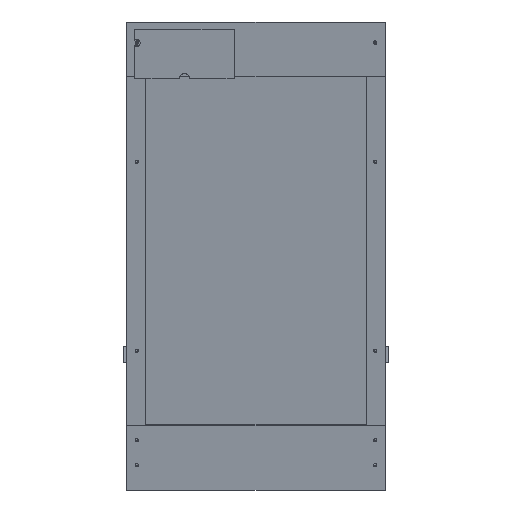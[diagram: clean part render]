
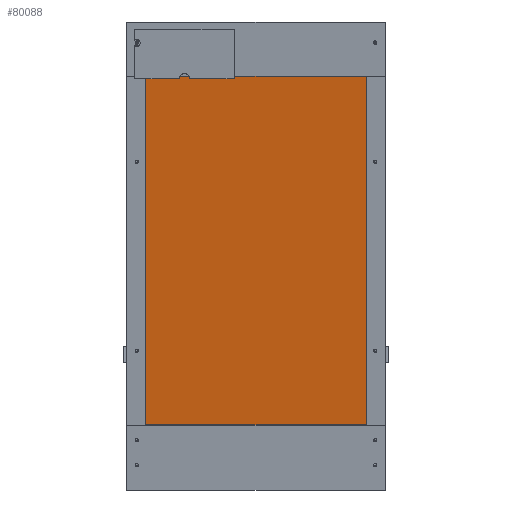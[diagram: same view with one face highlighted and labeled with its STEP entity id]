
A CAD part, top view. The second image highlights one B-rep face of the part: STEP entity #80088.
In plain terms, the highlighted planar face has unit normal (0, -0.174, 0.985).
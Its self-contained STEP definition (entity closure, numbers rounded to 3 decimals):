
#79919 = PLANE('',#79920);
#79920 = AXIS2_PLACEMENT_3D('',#79921,#79922,#79923);
#79921 = CARTESIAN_POINT('',(18.1,64.,86.285));
#79922 = DIRECTION('',(-0.,1.,0.));
#79923 = DIRECTION('',(0.,0.,-1.));
#79947 = PLANE('',#79948);
#79948 = AXIS2_PLACEMENT_3D('',#79949,#79950,#79951);
#79949 = CARTESIAN_POINT('',(241.9,240.675,111.437));
#79950 = DIRECTION('',(1.,0.,0.));
#79951 = DIRECTION('',(-0.,0.,1.));
#79975 = PLANE('',#79976);
#79976 = AXIS2_PLACEMENT_3D('',#79977,#79978,#79979);
#79977 = CARTESIAN_POINT('',(18.1,417.349,136.59));
#79978 = DIRECTION('',(0.,-1.,0.));
#79979 = DIRECTION('',(0.,0.,1.));
#80001 = PLANE('',#80002);
#80002 = AXIS2_PLACEMENT_3D('',#80003,#80004,#80005);
#80003 = CARTESIAN_POINT('',(18.1,240.675,111.437));
#80004 = DIRECTION('',(1.,0.,0.));
#80005 = DIRECTION('',(-0.,0.,1.));
#80018 = VERTEX_POINT('',#80019);
#80019 = CARTESIAN_POINT('',(241.9,417.349,148.59));
#80040 = EDGE_CURVE('',#80041,#80018,#80043,.T.);
#80041 = VERTEX_POINT('',#80042);
#80042 = CARTESIAN_POINT('',(18.1,417.349,148.59));
#80043 = SURFACE_CURVE('',#80044,(#80048,#80055),.PCURVE_S1.);
#80044 = LINE('',#80045,#80046);
#80045 = CARTESIAN_POINT('',(18.1,417.349,148.59));
#80046 = VECTOR('',#80047,1.);
#80047 = DIRECTION('',(1.,0.,0.));
#80048 = PCURVE('',#79975,#80049);
#80049 = DEFINITIONAL_REPRESENTATION('',(#80050),#80054);
#80050 = LINE('',#80051,#80052);
#80051 = CARTESIAN_POINT('',(12.,0.));
#80052 = VECTOR('',#80053,1.);
#80053 = DIRECTION('',(0.,-1.));
#80054 = ( GEOMETRIC_REPRESENTATION_CONTEXT(2) 
PARAMETRIC_REPRESENTATION_CONTEXT() REPRESENTATION_CONTEXT('2D SPACE',''
  ) );
#80055 = PCURVE('',#80056,#80061);
#80056 = PLANE('',#80057);
#80057 = AXIS2_PLACEMENT_3D('',#80058,#80059,#80060);
#80058 = CARTESIAN_POINT('',(18.1,417.349,148.59));
#80059 = DIRECTION('',(0.,0.174,-0.985));
#80060 = DIRECTION('',(0.,-0.985,-0.174));
#80061 = DEFINITIONAL_REPRESENTATION('',(#80062),#80066);
#80062 = LINE('',#80063,#80064);
#80063 = CARTESIAN_POINT('',(0.,0.));
#80064 = VECTOR('',#80065,1.);
#80065 = DIRECTION('',(0.,-1.));
#80066 = ( GEOMETRIC_REPRESENTATION_CONTEXT(2) 
PARAMETRIC_REPRESENTATION_CONTEXT() REPRESENTATION_CONTEXT('2D SPACE',''
  ) );
#80088 = ADVANCED_FACE('',(#80089),#80056,.F.);
#80089 = FACE_BOUND('',#80090,.F.);
#80090 = EDGE_LOOP('',(#80091,#80092,#80115,#80138));
#80091 = ORIENTED_EDGE('',*,*,#80040,.T.);
#80092 = ORIENTED_EDGE('',*,*,#80093,.T.);
#80093 = EDGE_CURVE('',#80018,#80094,#80096,.T.);
#80094 = VERTEX_POINT('',#80095);
#80095 = CARTESIAN_POINT('',(241.9,64.,86.285));
#80096 = SURFACE_CURVE('',#80097,(#80101,#80108),.PCURVE_S1.);
#80097 = LINE('',#80098,#80099);
#80098 = CARTESIAN_POINT('',(241.9,417.349,148.59));
#80099 = VECTOR('',#80100,1.);
#80100 = DIRECTION('',(0.,-0.985,-0.174));
#80101 = PCURVE('',#80056,#80102);
#80102 = DEFINITIONAL_REPRESENTATION('',(#80103),#80107);
#80103 = LINE('',#80104,#80105);
#80104 = CARTESIAN_POINT('',(0.,-223.8));
#80105 = VECTOR('',#80106,1.);
#80106 = DIRECTION('',(1.,0.));
#80107 = ( GEOMETRIC_REPRESENTATION_CONTEXT(2) 
PARAMETRIC_REPRESENTATION_CONTEXT() REPRESENTATION_CONTEXT('2D SPACE',''
  ) );
#80108 = PCURVE('',#79947,#80109);
#80109 = DEFINITIONAL_REPRESENTATION('',(#80110),#80114);
#80110 = LINE('',#80111,#80112);
#80111 = CARTESIAN_POINT('',(37.152,-176.675));
#80112 = VECTOR('',#80113,1.);
#80113 = DIRECTION('',(-0.174,0.985));
#80114 = ( GEOMETRIC_REPRESENTATION_CONTEXT(2) 
PARAMETRIC_REPRESENTATION_CONTEXT() REPRESENTATION_CONTEXT('2D SPACE',''
  ) );
#80115 = ORIENTED_EDGE('',*,*,#80116,.F.);
#80116 = EDGE_CURVE('',#80117,#80094,#80119,.T.);
#80117 = VERTEX_POINT('',#80118);
#80118 = CARTESIAN_POINT('',(18.1,64.,86.285));
#80119 = SURFACE_CURVE('',#80120,(#80124,#80131),.PCURVE_S1.);
#80120 = LINE('',#80121,#80122);
#80121 = CARTESIAN_POINT('',(18.1,64.,86.285));
#80122 = VECTOR('',#80123,1.);
#80123 = DIRECTION('',(1.,0.,0.));
#80124 = PCURVE('',#80056,#80125);
#80125 = DEFINITIONAL_REPRESENTATION('',(#80126),#80130);
#80126 = LINE('',#80127,#80128);
#80127 = CARTESIAN_POINT('',(358.8,0.));
#80128 = VECTOR('',#80129,1.);
#80129 = DIRECTION('',(0.,-1.));
#80130 = ( GEOMETRIC_REPRESENTATION_CONTEXT(2) 
PARAMETRIC_REPRESENTATION_CONTEXT() REPRESENTATION_CONTEXT('2D SPACE',''
  ) );
#80131 = PCURVE('',#79919,#80132);
#80132 = DEFINITIONAL_REPRESENTATION('',(#80133),#80137);
#80133 = LINE('',#80134,#80135);
#80134 = CARTESIAN_POINT('',(0.,0.));
#80135 = VECTOR('',#80136,1.);
#80136 = DIRECTION('',(0.,-1.));
#80137 = ( GEOMETRIC_REPRESENTATION_CONTEXT(2) 
PARAMETRIC_REPRESENTATION_CONTEXT() REPRESENTATION_CONTEXT('2D SPACE',''
  ) );
#80138 = ORIENTED_EDGE('',*,*,#80139,.F.);
#80139 = EDGE_CURVE('',#80041,#80117,#80140,.T.);
#80140 = SURFACE_CURVE('',#80141,(#80145,#80152),.PCURVE_S1.);
#80141 = LINE('',#80142,#80143);
#80142 = CARTESIAN_POINT('',(18.1,417.349,148.59));
#80143 = VECTOR('',#80144,1.);
#80144 = DIRECTION('',(0.,-0.985,-0.174));
#80145 = PCURVE('',#80056,#80146);
#80146 = DEFINITIONAL_REPRESENTATION('',(#80147),#80151);
#80147 = LINE('',#80148,#80149);
#80148 = CARTESIAN_POINT('',(0.,0.));
#80149 = VECTOR('',#80150,1.);
#80150 = DIRECTION('',(1.,0.));
#80151 = ( GEOMETRIC_REPRESENTATION_CONTEXT(2) 
PARAMETRIC_REPRESENTATION_CONTEXT() REPRESENTATION_CONTEXT('2D SPACE',''
  ) );
#80152 = PCURVE('',#80001,#80153);
#80153 = DEFINITIONAL_REPRESENTATION('',(#80154),#80158);
#80154 = LINE('',#80155,#80156);
#80155 = CARTESIAN_POINT('',(37.152,-176.675));
#80156 = VECTOR('',#80157,1.);
#80157 = DIRECTION('',(-0.174,0.985));
#80158 = ( GEOMETRIC_REPRESENTATION_CONTEXT(2) 
PARAMETRIC_REPRESENTATION_CONTEXT() REPRESENTATION_CONTEXT('2D SPACE',''
  ) );
